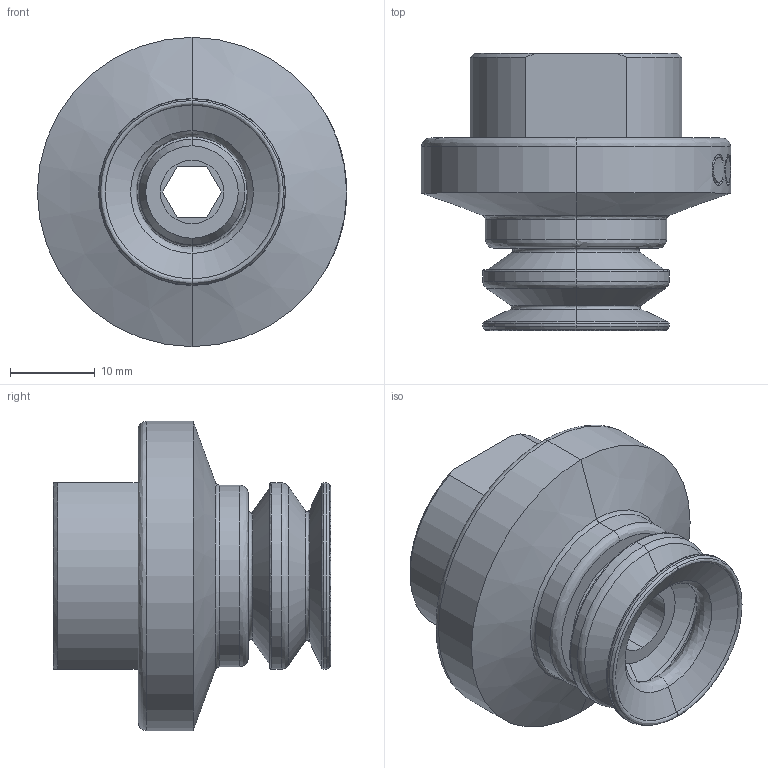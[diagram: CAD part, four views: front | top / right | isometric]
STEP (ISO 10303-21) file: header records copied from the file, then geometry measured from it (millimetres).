
FILE_DESCRIPTION (( 'STEP AP214' ), '1' );
FILE_NAME ('SAB-22-G3-8IG.STEP', '2023-03-07T01:21:54', ( 'Windows User' ), ( 'P R C' ), 'SwSTEP 2.0', 'SolidWorks 2019', '' );
FILE_SCHEMA (( 'AUTOMOTIVE_DESIGN' ));
Length unit declared in the file: millimetre
Products named in the file (1): SAB-22-G3-8IG
Bounding box: 36.5 x 32.74 x 36.5 mm (x, y, z)
Volume: 12933.4 mm3; surface area: 6342.5 mm2
Topology: 1 solids, 1 shells, 129 faces, 297 edges, 182 vertices
Faces by surface type: bspline 55, plane 29, cylinder 23, cone 22
Entity records: 9735 total; most frequent: CARTESIAN_POINT 5601, ORIENTED_EDGE 594, DIRECTION 491, EDGE_CURVE 297, AXIS2_PLACEMENT_3D 191, VERTEX_POINT 182, EDGE_LOOP 143, UNCERTAINTY_MEASURE_WITH_UNIT 132
